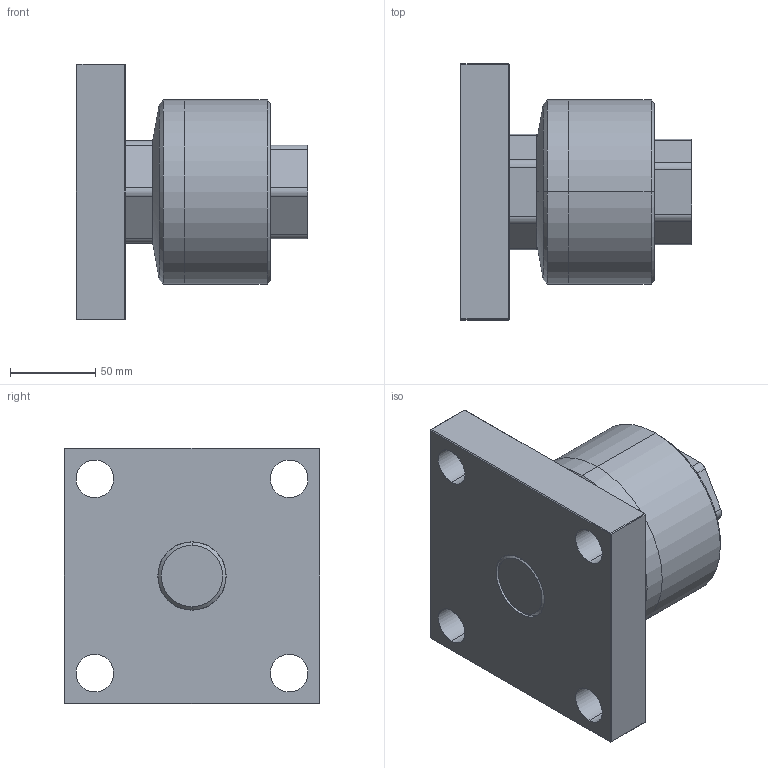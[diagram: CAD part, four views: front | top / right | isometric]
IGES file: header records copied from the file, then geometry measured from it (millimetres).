
Start section: SolidWorks IGES file using analytic representation for surfaces
Global section: file name: C:\Users\Toshiba\Desktop\FCM40-1.5-F.IGS; native system: SolidWorks 2014; preprocessor: SolidWorks 2014; author: Toshiba; date: 160414.100125; units: millimetre
Bounding box: 136 x 150 x 150 mm (x, y, z)
Surface area: 122473.6 mm2 (no closed solid volume)
Topology: 0 solids, 0 shells, 87 faces, 1192 edges, 1192 vertices
Faces by surface type: bspline 49, revolution 38
